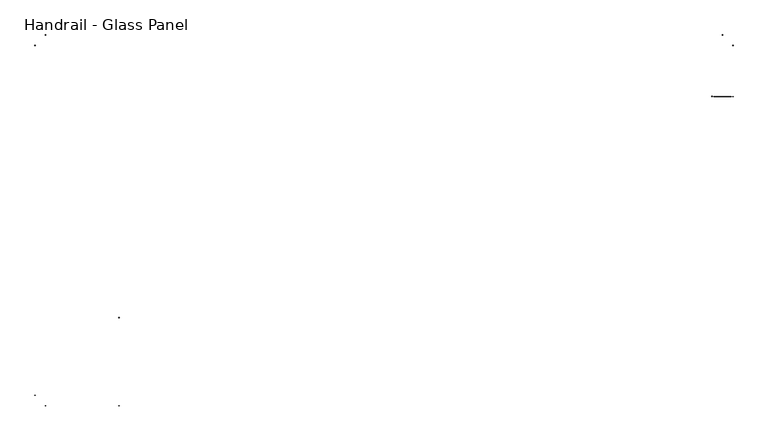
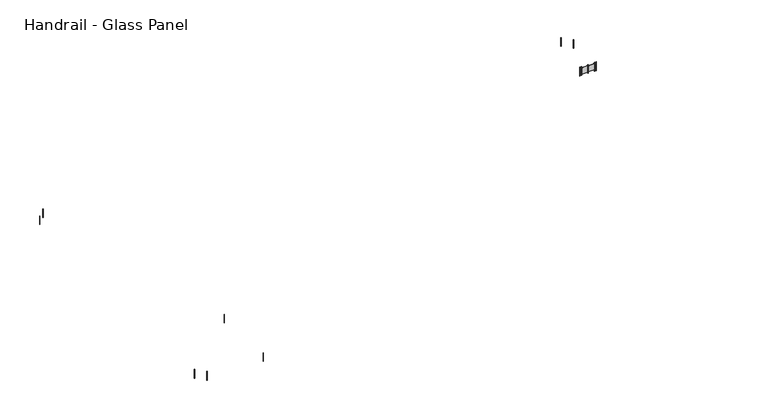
"""IFC4 building model written with IfcOpenShell, lengths in millimetres: railing geometry, Handrail - Glass Panel."""

from ifc_helpers import new_model, si_unit, point, frame, frame_2d, origin, place, context, project, spatial, polyline, circle_curve, trimmed, segment, composite_curve, outline, extrude, source, transform, mapped, element, save


def handrail_glass_panel_64a25707(model_context):
    return source(origin(), model_context, "Body", "SweptSolid", [
        extrude(outline(polyline([(30828.8158175, 6862.4601347), (30828.8158175, 6881.5101347), (30847.8658175, 6881.5101347), (30847.8658175, 6862.4601347), (30828.8158175, 6862.4601347)])), frame((0.0, 0.0, 11850.0), z_axis=(0.0, 0.0, 1.0), x_axis=(1.0, 0.0, 0.0)), (0.0, 0.0, 1.0), 863.6),
        extrude(outline(polyline([(30241.4408175, 6878.3351347), (30800.2408175, 6878.3351347), (30800.2408175, 6871.9851347), (30241.4408175, 6871.9851347), (30241.4408175, 6878.3351347)])), frame((0.0, 0.0, 11977.0), z_axis=(0.0, 0.0, 1.0), x_axis=(1.0, 0.0, 0.0)), (0.0, 0.0, 1.0), 635.0),
        extrude(outline(polyline([(30193.8158175, 6862.4601347), (30193.8158175, 6881.5101347), (30212.8658175, 6881.5101347), (30212.8658175, 6862.4601347), (30193.8158175, 6862.4601347)])), frame((0.0, 0.0, 11850.0), z_axis=(0.0, 0.0, 1.0), x_axis=(1.0, 0.0, 0.0)), (0.0, 0.0, 1.0), 863.6),
        extrude(outline(polyline([(29606.4408175, 6878.3351347), (30165.2408175, 6878.3351347), (30165.2408175, 6871.9851347), (29606.4408175, 6871.9851347), (29606.4408175, 6878.3351347)])), frame((0.0, 0.0, 11977.0), z_axis=(0.0, 0.0, 1.0), x_axis=(1.0, 0.0, 0.0)), (0.0, 0.0, 1.0), 635.0),
        extrude(outline(polyline([(29558.8158175, 6862.4601347), (29558.8158175, 6881.5101347), (29577.8658175, 6881.5101347), (29577.8658175, 6862.4601347), (29558.8158175, 6862.4601347)])), frame((0.0, 0.0, 11850.0), z_axis=(0.0, 0.0, 1.0), x_axis=(1.0, 0.0, 0.0)), (0.0, 0.0, 1.0), 863.6),
        extrude(outline(composite_curve([segment(trimmed(circle_curve(frame_2d((-14372.1865899, -15998.0148653)), 12.7), [point((-14372.1865899, -15985.3148653))], [point((-14372.1865899, -16010.7148653))], False, "CARTESIAN"), True, "CONTINUOUS"), segment(trimmed(circle_curve(frame_2d((-14372.1865899, -15998.0148653)), 12.7), [point((-14372.1865899, -16010.7148653))], [point((-14372.1865899, -15985.3148653))], False, "CARTESIAN"), True, "CONTINUOUS")], self_intersect=False)), frame((0.0, 0.0, 11850.0), z_axis=(0.0, 0.0, 1.0), x_axis=(1.0, 0.0, 0.0)), (0.0, 0.0, 1.0), 863.6),
        extrude(outline(composite_curve([segment(trimmed(circle_curve(frame_2d((-19787.5865899, -15998.0148653)), 12.7), [point((-19787.5865899, -15985.3148653))], [point((-19787.5865899, -16010.7148653))], False, "CARTESIAN"), True, "CONTINUOUS"), segment(trimmed(circle_curve(frame_2d((-19787.5865899, -15998.0148653)), 12.7), [point((-19787.5865899, -16010.7148653))], [point((-19787.5865899, -15985.3148653))], False, "CARTESIAN"), True, "CONTINUOUS")], self_intersect=False)), frame((0.0, 0.0, 11850.0), z_axis=(0.0, 0.0, 1.0), x_axis=(1.0, 0.0, 0.0)), (0.0, 0.0, 1.0), 863.6),
        extrude(outline(composite_curve([segment(trimmed(circle_curve(frame_2d((-20562.9865899, -15222.6148653)), 12.7), [point((-20550.2865899, -15222.6148653))], [point((-20575.6865899, -15222.6148653))], False, "CARTESIAN"), True, "CONTINUOUS"), segment(trimmed(circle_curve(frame_2d((-20562.9865899, -15222.6148653)), 12.7), [point((-20575.6865899, -15222.6148653))], [point((-20550.2865899, -15222.6148653))], False, "CARTESIAN"), True, "CONTINUOUS")], self_intersect=False)), frame((0.0, 0.0, 11850.0), z_axis=(0.0, 0.0, 1.0), x_axis=(1.0, 0.0, 0.0)), (0.0, 0.0, 1.0), 863.6),
        extrude(outline(composite_curve([segment(trimmed(circle_curve(frame_2d((-20562.9865899, 10647.3851347)), 12.7), [point((-20550.2865899, 10647.3851347))], [point((-20575.6865899, 10647.3851347))], False, "CARTESIAN"), True, "CONTINUOUS"), segment(trimmed(circle_curve(frame_2d((-20562.9865899, 10647.3851347)), 12.7), [point((-20575.6865899, 10647.3851347))], [point((-20550.2865899, 10647.3851347))], False, "CARTESIAN"), True, "CONTINUOUS")], self_intersect=False)), frame((0.0, 0.0, 11850.0), z_axis=(0.0, 0.0, 1.0), x_axis=(1.0, 0.0, 0.0)), (0.0, 0.0, 1.0), 863.6),
        extrude(outline(composite_curve([segment(trimmed(circle_curve(frame_2d((-19787.5865899, 11422.7851347)), 12.7), [point((-19787.5865899, 11410.0851347))], [point((-19787.5865899, 11435.4851347))], False, "CARTESIAN"), True, "CONTINUOUS"), segment(trimmed(circle_curve(frame_2d((-19787.5865899, 11422.7851347)), 12.7), [point((-19787.5865899, 11435.4851347))], [point((-19787.5865899, 11410.0851347))], False, "CARTESIAN"), True, "CONTINUOUS")], self_intersect=False)), frame((0.0, 0.0, 11850.0), z_axis=(0.0, 0.0, 1.0), x_axis=(1.0, 0.0, 0.0)), (0.0, 0.0, 1.0), 863.6),
        extrude(outline(composite_curve([segment(trimmed(circle_curve(frame_2d((30212.4134101, 11422.7851347)), 12.7), [point((30212.4134101, 11410.0851347))], [point((30212.4134101, 11435.4851347))], False, "CARTESIAN"), True, "CONTINUOUS"), segment(trimmed(circle_curve(frame_2d((30212.4134101, 11422.7851347)), 12.7), [point((30212.4134101, 11435.4851347))], [point((30212.4134101, 11410.0851347))], False, "CARTESIAN"), True, "CONTINUOUS")], self_intersect=False)), frame((0.0, 0.0, 11850.0), z_axis=(0.0, 0.0, 1.0), x_axis=(1.0, 0.0, 0.0)), (0.0, 0.0, 1.0), 863.6),
        extrude(outline(composite_curve([segment(trimmed(circle_curve(frame_2d((30987.8134101, 10647.3851347)), 12.7), [point((30975.1134101, 10647.3851347))], [point((31000.5134101, 10647.3851347))], False, "CARTESIAN"), True, "CONTINUOUS"), segment(trimmed(circle_curve(frame_2d((30987.8134101, 10647.3851347)), 12.7), [point((31000.5134101, 10647.3851347))], [point((30975.1134101, 10647.3851347))], False, "CARTESIAN"), True, "CONTINUOUS")], self_intersect=False)), frame((0.0, 0.0, 11850.0), z_axis=(0.0, 0.0, 1.0), x_axis=(1.0, 0.0, 0.0)), (0.0, 0.0, 1.0), 863.6),
        extrude(outline(composite_curve([segment(trimmed(circle_curve(frame_2d((30987.8134101, 6871.9851347)), 12.7), [point((30987.8134101, 6884.6851347))], [point((30987.8134101, 6859.2851347))], False, "CARTESIAN"), True, "CONTINUOUS"), segment(trimmed(circle_curve(frame_2d((30987.8134101, 6871.9851347)), 12.7), [point((30987.8134101, 6859.2851347))], [point((30987.8134101, 6884.6851347))], False, "CARTESIAN"), True, "CONTINUOUS")], self_intersect=False)), frame((0.0, 0.0, 11850.0), z_axis=(0.0, 0.0, 1.0), x_axis=(1.0, 0.0, 0.0)), (0.0, 0.0, 1.0), 863.6),
        extrude(outline(composite_curve([segment(trimmed(circle_curve(frame_2d((-14372.1865899, -9482.1398653)), 12.7), [point((-14384.8865899, -9482.1398653))], [point((-14359.4865899, -9482.1398653))], False, "CARTESIAN"), True, "CONTINUOUS"), segment(trimmed(circle_curve(frame_2d((-14372.1865899, -9482.1398653)), 12.7), [point((-14359.4865899, -9482.1398653))], [point((-14384.8865899, -9482.1398653))], False, "CARTESIAN"), True, "CONTINUOUS")], self_intersect=False)), frame((0.0, 0.0, 11850.0), z_axis=(0.0, 0.0, 1.0), x_axis=(1.0, 0.0, 0.0)), (0.0, 0.0, 1.0), 863.6),
        extrude(outline(polyline([(29409.3432249, 6852.9351347), (29409.3432249, 6891.0351347), (29447.4432249, 6891.0351347), (29447.4432249, 6852.9351347), (29409.3432249, 6852.9351347)])), frame((0.0, 0.0, 11850.0), z_axis=(0.0, 0.0, 1.0), x_axis=(1.0, 0.0, 0.0)), (0.0, 0.0, 1.0), 863.6),
    ])


if __name__ == "__main__":
    model = new_model("IFC4")
    model_context = context("Model", 3, world=origin())
    ifc_project = project(units=[si_unit("LENGTHUNIT", "METRE", prefix="MILLI")], contexts=[model_context])
    site = spatial("IfcSite", under=ifc_project)
    building = spatial("IfcBuilding", under=site)
    placement = place(None, origin())
    handrail_glass_panel_shape = handrail_glass_panel_64a25707(model_context)
    element("IfcRailing", 1, ObjectType="Handrail - Glass Panel", at=placement, inside=building, context=model_context, shape_type="MappedRepresentation", body=[
        mapped(handrail_glass_panel_shape, transform((0.0, 0.0, 0.0), x_axis=(1.0, 0.0, 0.0), y_axis=(0.0, 1.0, 0.0), z_axis=(0.0, 0.0, 1.0))),
    ])
    save(model, "model.ifc")
